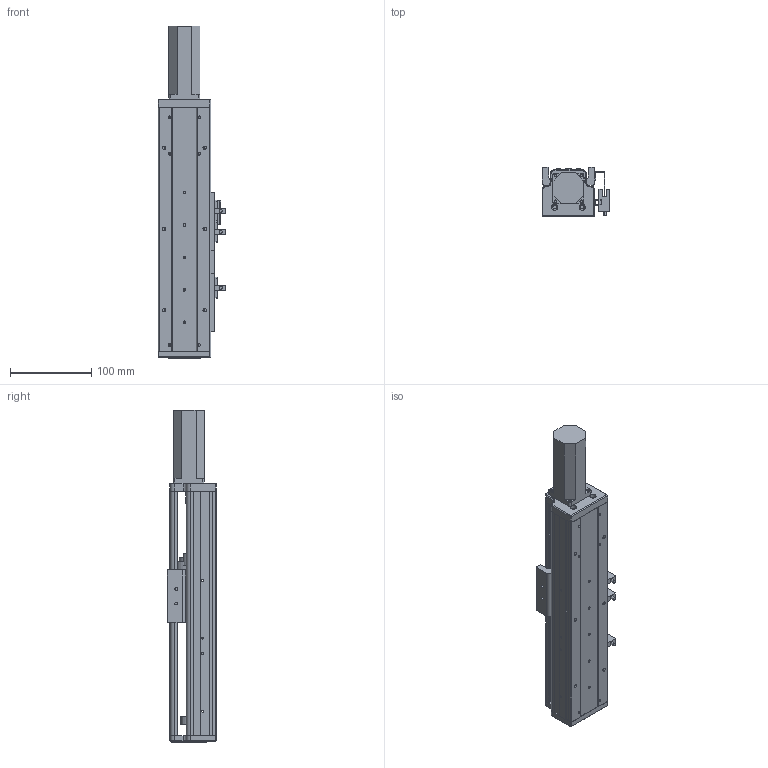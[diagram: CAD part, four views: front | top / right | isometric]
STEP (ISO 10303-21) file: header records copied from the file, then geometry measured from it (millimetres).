
FILE_DESCRIPTION (( 'STEP AP203' ), '1' );
FILE_NAME ('RY60-L1210-300-MK.SLDASM_100.step', '2021-02-20T01:55:42', ( '' ), ( '' ), 'SwSTEP 2.0', 'SolidWorks 2012', '' );
FILE_SCHEMA (( 'CONFIG_CONTROL_DESIGN' ));
Length unit declared in the file: millimetre
Products named in the file (13): RY60-L1210-300-MK.SLDASM_100; RY60綴裔啣; 滅袉蝶18-10; SFN1210螺母(没线割）; RY80俋离覜茼え; 滅袉蝶18-20; 侂狟100W; RY60前盖板100(PCD46-M4); 覜茼ん672; RY60-300倰第裔啣-MK_100; 672嫖萇羲壽假蚾釱; RY60-300倰第菁釱-MK_100; RY60臏賑輸
Assembly tree (17 placements, depth 2):
  RY60-L1210-300-MK.SLDASM_100
    RY60-300倰第菁釱-MK_100
    RY60臏賑輸
    RY60-300倰第裔啣-MK_100
    RY60前盖板100(PCD46-M4)
    672嫖萇羲壽假蚾釱  x2
    覜茼ん672  x3
    RY80俋离覜茼え
    侂狟100W
    滅袉蝶18-20  x2
    滅袉蝶18-10  x2
    RY60綴裔啣
    SFN1210螺母(没线割）
Bounding box: 83.7 x 61 x 409 mm (x, y, z)
Volume: 555541.2 mm3; surface area: 245179.2 mm2
Topology: 18 solids, 18 shells, 1054 faces, 2933 edges, 1898 vertices
Faces by surface type: plane 517, cylinder 471, cone 57, bspline 9
Entity records: 33285 total; most frequent: CARTESIAN_POINT 7508, ORIENTED_EDGE 5142, DIRECTION 5000, EDGE_CURVE 2571, AXIS2_PLACEMENT_3D 1728, VERTEX_POINT 1682, LINE 1544, VECTOR 1544
